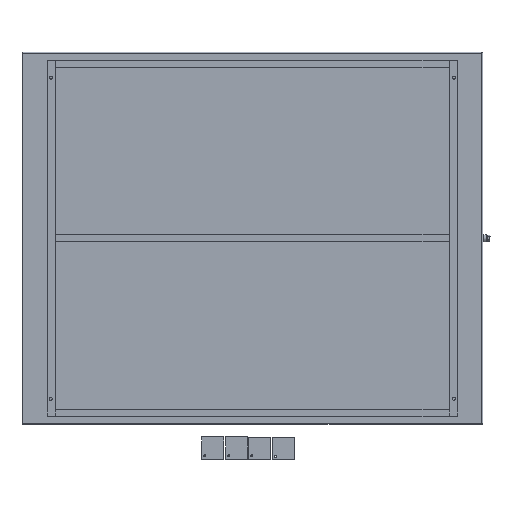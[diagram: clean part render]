
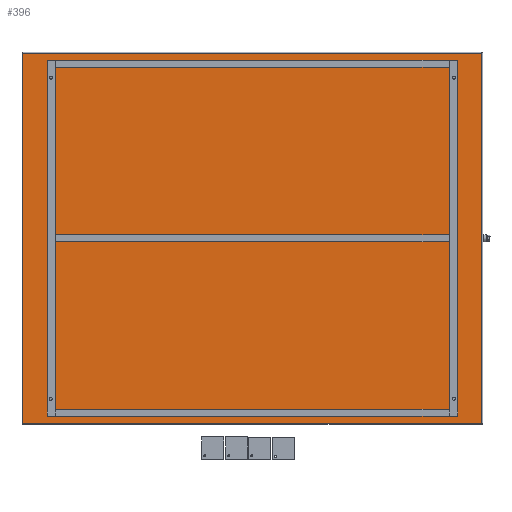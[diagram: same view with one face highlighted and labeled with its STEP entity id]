
A CAD part, front view. The second image highlights one B-rep face of the part: STEP entity #396.
In plain terms, the highlighted planar face has unit normal (0, -1, 0).
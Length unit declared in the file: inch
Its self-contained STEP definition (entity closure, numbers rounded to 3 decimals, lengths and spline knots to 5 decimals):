
#116 = LINE ( 'NONE', #3429, #258 ) ;
#212 = EDGE_CURVE ( 'NONE', #3597, #1700, #3485, .T. ) ;
#217 = VERTEX_POINT ( 'NONE', #832 ) ;
#258 = VECTOR ( 'NONE', #2211, 39.37008 ) ;
#348 = LINE ( 'NONE', #642, #3632 ) ;
#396 = ADVANCED_FACE ( 'NONE', ( #1643 ), #1386, .T. ) ;
#486 = ORIENTED_EDGE ( 'NONE', *, *, #2440, .T. ) ;
#572 = VECTOR ( 'NONE', #2343, 39.37008 ) ;
#604 = EDGE_LOOP ( 'NONE', ( #1224, #486, #2859, #916 ) ) ;
#642 = CARTESIAN_POINT ( 'NONE',  ( 0.13457, -0.1345, -83.803 ) ) ;
#730 = DIRECTION ( 'NONE',  ( 0., -1., 0. ) ) ;
#832 = CARTESIAN_POINT ( 'NONE',  ( 0.197, -0.1345, -83.803 ) ) ;
#885 = CARTESIAN_POINT ( 'NONE',  ( 103.86543, -0.1345, -0.197 ) ) ;
#893 = VERTEX_POINT ( 'NONE', #1241 ) ;
#916 = ORIENTED_EDGE ( 'NONE', *, *, #2878, .T. ) ;
#1091 = DIRECTION ( 'NONE',  ( 0., 0., -1. ) ) ;
#1224 = ORIENTED_EDGE ( 'NONE', *, *, #3662, .T. ) ;
#1241 = CARTESIAN_POINT ( 'NONE',  ( 103.803, -0.1345, -83.803 ) ) ;
#1386 = PLANE ( 'NONE',  #2066 ) ;
#1643 = FACE_OUTER_BOUND ( 'NONE', #604, .T. ) ;
#1700 = VERTEX_POINT ( 'NONE', #3009 ) ;
#2066 = AXIS2_PLACEMENT_3D ( 'NONE', #3734, #730, #1091 ) ;
#2095 = CARTESIAN_POINT ( 'NONE',  ( 0.197, -0.1345, -0.13457 ) ) ;
#2177 = DIRECTION ( 'NONE',  ( 0., 0., -1. ) ) ;
#2211 = DIRECTION ( 'NONE',  ( 0., 0., 1. ) ) ;
#2343 = DIRECTION ( 'NONE',  ( -1., 0., 0. ) ) ;
#2403 = LINE ( 'NONE', #2095, #3046 ) ;
#2440 = EDGE_CURVE ( 'NONE', #893, #3597, #116, .T. ) ;
#2859 = ORIENTED_EDGE ( 'NONE', *, *, #212, .T. ) ;
#2878 = EDGE_CURVE ( 'NONE', #1700, #217, #2403, .T. ) ;
#3009 = CARTESIAN_POINT ( 'NONE',  ( 0.197, -0.1345, -0.197 ) ) ;
#3046 = VECTOR ( 'NONE', #2177, 39.37008 ) ;
#3322 = DIRECTION ( 'NONE',  ( 1., 0., 0. ) ) ;
#3429 = CARTESIAN_POINT ( 'NONE',  ( 103.803, -0.1345, -83.86543 ) ) ;
#3485 = LINE ( 'NONE', #885, #572 ) ;
#3597 = VERTEX_POINT ( 'NONE', #3752 ) ;
#3632 = VECTOR ( 'NONE', #3322, 39.37008 ) ;
#3662 = EDGE_CURVE ( 'NONE', #217, #893, #348, .T. ) ;
#3734 = CARTESIAN_POINT ( 'NONE',  ( 0., -0.1345, 0. ) ) ;
#3752 = CARTESIAN_POINT ( 'NONE',  ( 103.803, -0.1345, -0.197 ) ) ;
